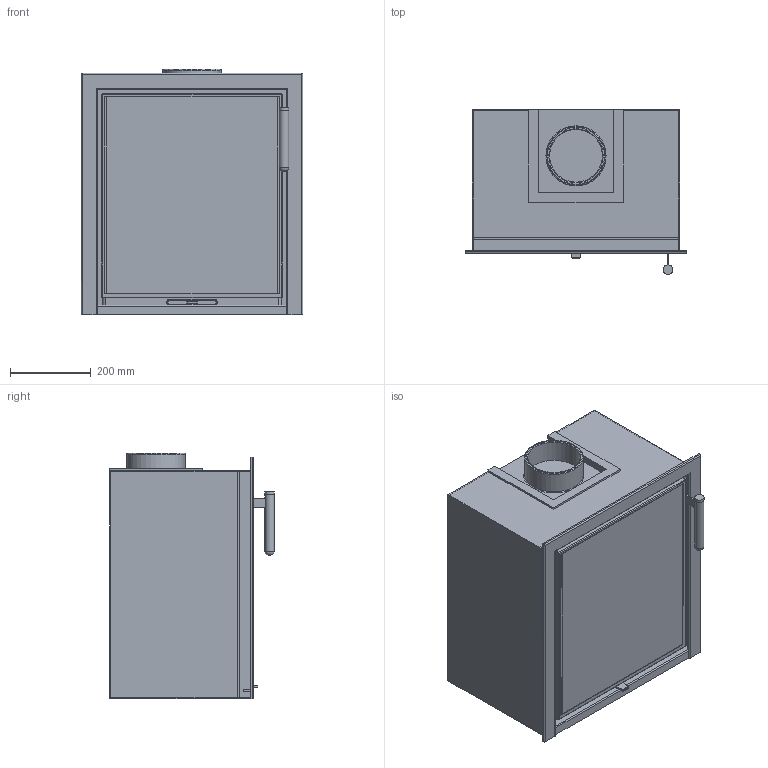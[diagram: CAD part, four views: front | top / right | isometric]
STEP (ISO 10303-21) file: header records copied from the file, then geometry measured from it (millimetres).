
FILE_DESCRIPTION(/* description */ ('Unknown'),/* implementation_level */ '2;1');
FILE_NAME(/* name */ 'Ci2G 3-side frame',/* time_stamp */ '2024-09-30T13:42:41+02:00',/* author */ ('Unknown'),/* organization */ ('Unknown'),/* preprocessor_version */ 'ST-DEVELOPER v18.102',/* originating_system */ 'Solid Edge',/* authorisation */ 'Unknown');
FILE_SCHEMA (('AUTOMOTIVE_DESIGN {1 0 10303 214 3 1 1}'));
Length unit declared in the file: millimetre
Products named in the file (8): DSN1058352; DSN1058347; DSN1058344; DSN1058345; DSN1058330; DSN1058332; DSN1058335; DSN1058333
Assembly tree (7 placements, depth 2):
  DSN1058352
    DSN1058347
    DSN1058344
    DSN1058345
    DSN1058330
    DSN1058332
    DSN1058335
    DSN1058333
Bounding box: 549 x 407.9 x 608.4 mm (x, y, z)
Volume: 23131800.1 mm3; surface area: 6143335.2 mm2
Topology: 8 solids, 8 shells, 828 faces, 2103 edges, 1344 vertices
Faces by surface type: plane 465, cylinder 165, bspline 154, torus 34, sphere 10
Full cylindrical faces by diameter (mm): 6.027 x9, 23 x1, 23.4 x1, 130.55 x1, 145 x1
Entity records: 31338 total; most frequent: CARTESIAN_POINT 10922, ORIENTED_EDGE 4110, DIRECTION 3597, EDGE_CURVE 2055, LINE 1413, VECTOR 1413, VERTEX_POINT 1332, AXIS2_PLACEMENT_3D 1092
